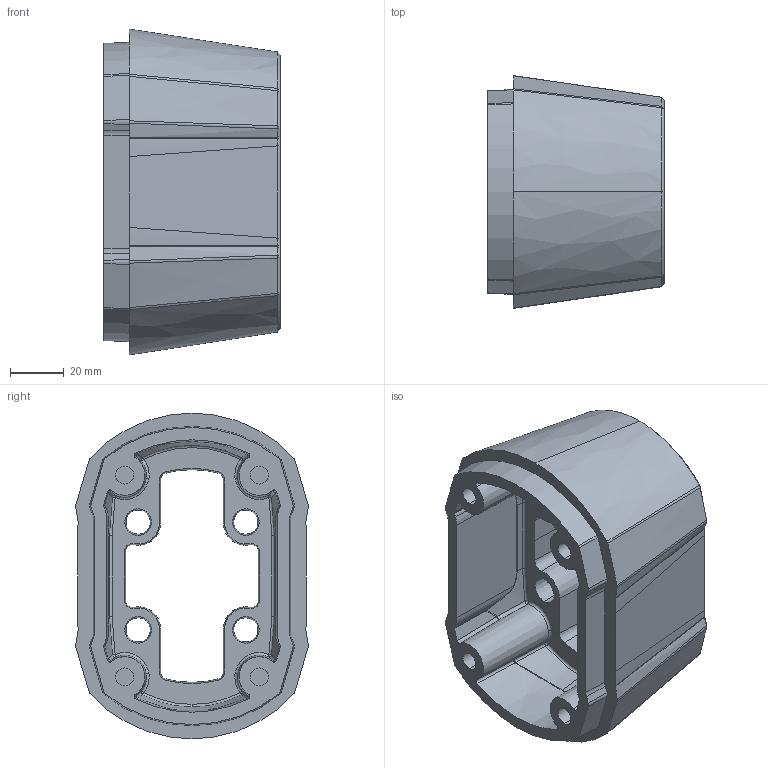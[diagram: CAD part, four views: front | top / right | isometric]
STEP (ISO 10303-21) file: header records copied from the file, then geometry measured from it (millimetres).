
FILE_DESCRIPTION((''),'2;1');
FILE_NAME('75-110-60_95','2024-03-06T19:06:42',('Administrator'),(''),'CREO PARAMETRIC BY PTC INC, 2019010','CREO PARAMETRIC BY PTC INC, 2019010','');
FILE_SCHEMA(('CONFIG_CONTROL_DESIGN','SHAPE_APPEARANCE_LAYERS_GROUPS'));
Length unit declared in the file: millimetre
Products named in the file (1): 75-110-60_95
Bounding box: 65.5 x 86.36 x 121 mm (x, y, z)
Volume: 192437.3 mm3; surface area: 54579.7 mm2
Topology: 1 solids, 1 shells, 302 faces, 812 edges, 516 vertices
Faces by surface type: bspline 120, cone 70, plane 64, cylinder 32, torus 12, sphere 4
Entity records: 14130 total; most frequent: CARTESIAN_POINT 5932, ORIENTED_EDGE 1616, COLOUR_RGB 1251, DIRECTION 1168, EDGE_CURVE 808, VERTEX_POINT 516, AXIS2_PLACEMENT_3D 422, VECTOR 324
